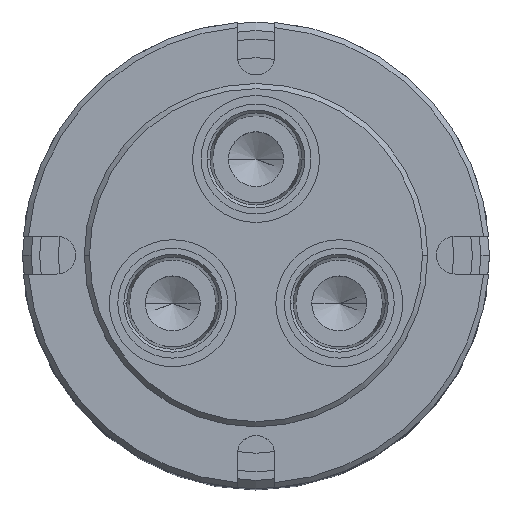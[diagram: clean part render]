
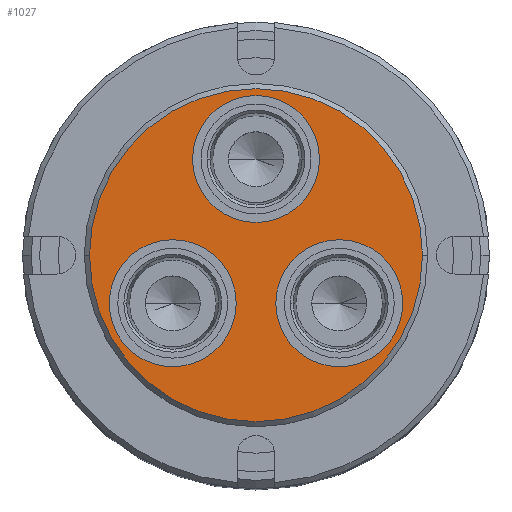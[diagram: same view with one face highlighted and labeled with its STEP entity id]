
A CAD part, top view. The second image highlights one B-rep face of the part: STEP entity #1027.
In plain terms, the highlighted planar face has unit normal (0, 0, 1).
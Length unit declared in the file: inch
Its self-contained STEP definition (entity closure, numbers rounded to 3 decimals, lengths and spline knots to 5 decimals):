
#303 = CARTESIAN_POINT ( 'NONE',  ( 0.75777, -0.4375, 0. ) ) ;
#304 = DIRECTION ( 'NONE',  ( 0., 0., 1. ) ) ;
#305 = DIRECTION ( 'NONE',  ( -0.5, -0.866, 0. ) ) ;
#519 = CARTESIAN_POINT ( 'NONE',  ( -1.5155, 0., 0. ) ) ;
#521 = CARTESIAN_POINT ( 'NONE',  ( -0.578, 0.875, 0. ) ) ;
#553 = CARTESIAN_POINT ( 'NONE',  ( 0.578, 0.875, 0. ) ) ;
#603 = CARTESIAN_POINT ( 'NONE',  ( 1.33577, -0.4375, 0. ) ) ;
#697 = CARTESIAN_POINT ( 'NONE',  ( 0.17977, -0.4375, 0. ) ) ;
#700 = CARTESIAN_POINT ( 'NONE',  ( -0.17977, -0.4375, 0. ) ) ;
#704 = CARTESIAN_POINT ( 'NONE',  ( -1.33577, -0.4375, 0. ) ) ;
#725 = CARTESIAN_POINT ( 'NONE',  ( 1.5155, 0., 0. ) ) ;
#877 = EDGE_CURVE ( 'NONE', #4834, #4462, #4411, .T. ) ;
#891 = EDGE_CURVE ( 'NONE', #4462, #4834, #4288, .T. ) ;
#1026 = EDGE_CURVE ( 'NONE', #5268, #5140, #4514, .T. ) ;
#1027 = ADVANCED_FACE ( 'NONE', ( #2838, #2842, #2832, #2847 ), #2846, .F. ) ;
#1058 = EDGE_CURVE ( 'NONE', #5275, #5271, #4338, .T. ) ;
#1130 = EDGE_CURVE ( 'NONE', #5314, #4459, #1506, .T. ) ;
#1355 = EDGE_CURVE ( 'NONE', #5271, #5275, #5000, .T. ) ;
#1381 = EDGE_CURVE ( 'NONE', #4459, #5314, #4898, .T. ) ;
#1425 = EDGE_CURVE ( 'NONE', #5140, #5268, #6460, .T. ) ;
#1506 = CIRCLE ( 'NONE', #1507, 1.5155 ) ;
#1507 = AXIS2_PLACEMENT_3D ( 'NONE', #5959, #5960, #5961 ) ;
#1636 = ORIENTED_EDGE ( 'NONE', *, *, #1381, .T. ) ;
#1694 = ORIENTED_EDGE ( 'NONE', *, *, #891, .F. ) ;
#1695 = ORIENTED_EDGE ( 'NONE', *, *, #1425, .F. ) ;
#1875 = EDGE_LOOP ( 'NONE', ( #1636, #4704 ) ) ;
#1956 = EDGE_LOOP ( 'NONE', ( #4696, #1694 ) ) ;
#1961 = EDGE_LOOP ( 'NONE', ( #1695, #4697 ) ) ;
#2001 = CARTESIAN_POINT ( 'NONE',  ( 0., 0.875, 0. ) ) ;
#2002 = DIRECTION ( 'NONE',  ( 0., 0., 1. ) ) ;
#2003 = DIRECTION ( 'NONE',  ( 1., 0., 0. ) ) ;
#2088 = CARTESIAN_POINT ( 'NONE',  ( 0., 0.875, 0. ) ) ;
#2089 = DIRECTION ( 'NONE',  ( 0., 0., 1. ) ) ;
#2090 = DIRECTION ( 'NONE',  ( 1., 0., 0. ) ) ;
#2832 = FACE_BOUND ( 'NONE', #1956, .T. ) ;
#2838 = FACE_BOUND ( 'NONE', #4659, .T. ) ;
#2842 = FACE_BOUND ( 'NONE', #1961, .T. ) ;
#2846 = PLANE ( 'NONE',  #4370 ) ;
#2847 = FACE_OUTER_BOUND ( 'NONE', #1875, .T. ) ;
#2848 = CARTESIAN_POINT ( 'NONE',  ( 0.75777, -0.4375, 0. ) ) ;
#2849 = DIRECTION ( 'NONE',  ( 0., 0., 1. ) ) ;
#2850 = DIRECTION ( 'NONE',  ( -0.5, -0.866, 0. ) ) ;
#2863 = CARTESIAN_POINT ( 'NONE',  ( 0., 0., 0. ) ) ;
#2864 = DIRECTION ( 'NONE',  ( 0., 0., -1. ) ) ;
#2865 = DIRECTION ( 'NONE',  ( -1., 0., 0. ) ) ;
#3840 = CARTESIAN_POINT ( 'NONE',  ( -0.75777, -0.4375, 0. ) ) ;
#3841 = DIRECTION ( 'NONE',  ( 0., 0., 1. ) ) ;
#3842 = DIRECTION ( 'NONE',  ( -0.5, 0.866, 0. ) ) ;
#3998 = CARTESIAN_POINT ( 'NONE',  ( 0., 0., 0. ) ) ;
#3999 = DIRECTION ( 'NONE',  ( 0., 0., 1. ) ) ;
#4000 = DIRECTION ( 'NONE',  ( -1., 0., 0. ) ) ;
#4143 = AXIS2_PLACEMENT_3D ( 'NONE', #2088, #2089, #2090 ) ;
#4168 = AXIS2_PLACEMENT_3D ( 'NONE', #2848, #2849, #2850 ) ;
#4177 = AXIS2_PLACEMENT_3D ( 'NONE', #2001, #2002, #2003 ) ;
#4284 = AXIS2_PLACEMENT_3D ( 'NONE', #5558, #5559, #5560 ) ;
#4288 = CIRCLE ( 'NONE', #4143, 0.578 ) ;
#4338 = CIRCLE ( 'NONE', #4284, 0.578 ) ;
#4370 = AXIS2_PLACEMENT_3D ( 'NONE', #2863, #2864, #2865 ) ;
#4411 = CIRCLE ( 'NONE', #4177, 0.578 ) ;
#4459 = VERTEX_POINT ( 'NONE', #519 ) ;
#4462 = VERTEX_POINT ( 'NONE', #521 ) ;
#4514 = CIRCLE ( 'NONE', #4168, 0.578 ) ;
#4659 = EDGE_LOOP ( 'NONE', ( #4699, #4703 ) ) ;
#4696 = ORIENTED_EDGE ( 'NONE', *, *, #877, .F. ) ;
#4697 = ORIENTED_EDGE ( 'NONE', *, *, #1026, .F. ) ;
#4699 = ORIENTED_EDGE ( 'NONE', *, *, #1355, .F. ) ;
#4703 = ORIENTED_EDGE ( 'NONE', *, *, #1058, .F. ) ;
#4704 = ORIENTED_EDGE ( 'NONE', *, *, #1130, .T. ) ;
#4834 = VERTEX_POINT ( 'NONE', #553 ) ;
#4898 = CIRCLE ( 'NONE', #6527, 1.5155 ) ;
#4978 = AXIS2_PLACEMENT_3D ( 'NONE', #3840, #3841, #3842 ) ;
#5000 = CIRCLE ( 'NONE', #4978, 0.578 ) ;
#5140 = VERTEX_POINT ( 'NONE', #603 ) ;
#5268 = VERTEX_POINT ( 'NONE', #697 ) ;
#5271 = VERTEX_POINT ( 'NONE', #700 ) ;
#5275 = VERTEX_POINT ( 'NONE', #704 ) ;
#5314 = VERTEX_POINT ( 'NONE', #725 ) ;
#5558 = CARTESIAN_POINT ( 'NONE',  ( -0.75777, -0.4375, 0. ) ) ;
#5559 = DIRECTION ( 'NONE',  ( 0., 0., 1. ) ) ;
#5560 = DIRECTION ( 'NONE',  ( -0.5, 0.866, 0. ) ) ;
#5959 = CARTESIAN_POINT ( 'NONE',  ( 0., 0., 0. ) ) ;
#5960 = DIRECTION ( 'NONE',  ( 0., 0., 1. ) ) ;
#5961 = DIRECTION ( 'NONE',  ( -1., 0., 0. ) ) ;
#6460 = CIRCLE ( 'NONE', #6508, 0.578 ) ;
#6508 = AXIS2_PLACEMENT_3D ( 'NONE', #303, #304, #305 ) ;
#6527 = AXIS2_PLACEMENT_3D ( 'NONE', #3998, #3999, #4000 ) ;
